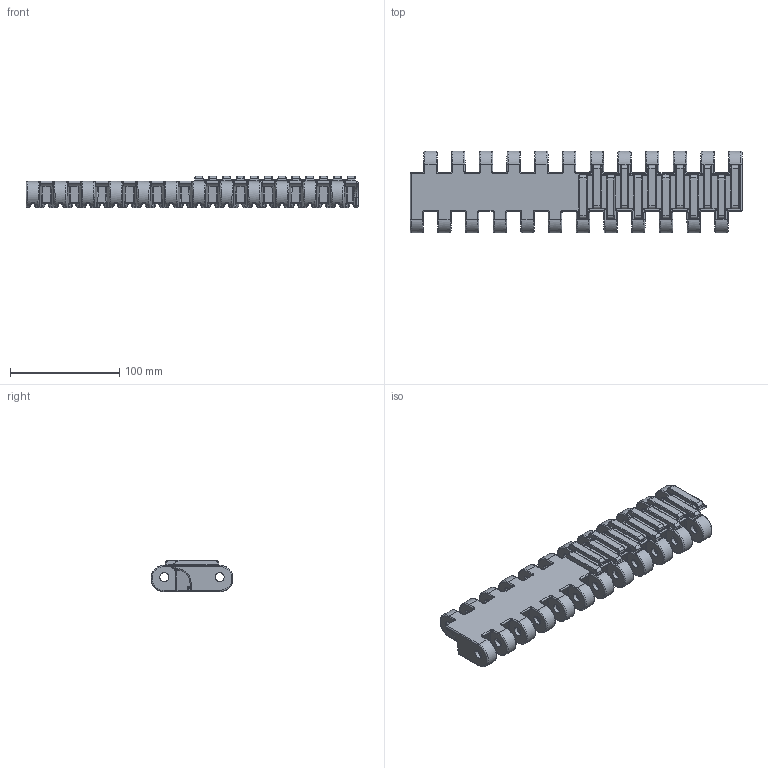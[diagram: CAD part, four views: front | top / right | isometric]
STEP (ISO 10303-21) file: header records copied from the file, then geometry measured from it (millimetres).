
FILE_DESCRIPTION((''),'2;1');
FILE_NAME('K814_ASM','2015-10-15T',('mth'),(''),'CREO PARAMETRIC BY PTC INC, 2015290','CREO PARAMETRIC BY PTC INC, 2015290','');
FILE_SCHEMA(('AUTOMOTIVE_DESIGN { 1 0 10303 214 1 1 1 1 }'));
Products named in the file (3): P1348; UNI_CSB_FLAT_RIB_RUBBER; K814_ASM
Assembly tree (2 placements, depth 2):
  K814_ASM
    P1348
    UNI_CSB_FLAT_RIB_RUBBER
Bounding box: 304.4 x 75.15 x 28.5 mm (x, y, z)
Volume: 208719.6 mm3; surface area: 119651.9 mm2
Topology: 2 solids, 2 shells, 3788 faces, 9100 edges, 5268 vertices
Faces by surface type: cylinder 1616, bspline 1196, plane 726, sphere 198, extrusion 44, torus 8
Entity records: 257112 total; most frequent: CARTESIAN_POINT 154563, ORIENTED_EDGE 18200, DIRECTION 13526, EDGE_CURVE 9100, PRESENTATION_STYLE_ASSIGNMENT 7915, STYLED_ITEM 7915, CURVE_STYLE 7914, VERTEX_POINT 5268
